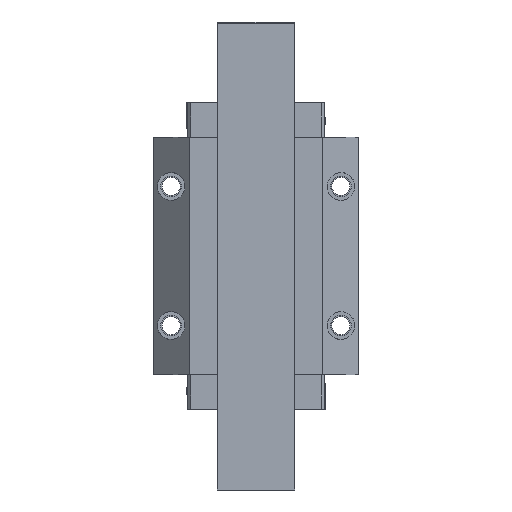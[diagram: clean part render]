
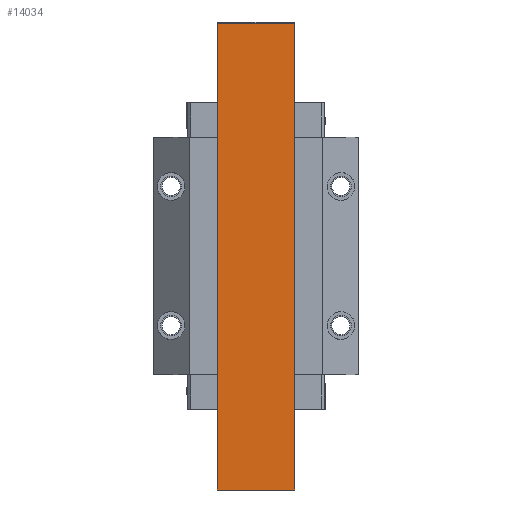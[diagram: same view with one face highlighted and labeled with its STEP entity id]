
A CAD part, front view. The second image highlights one B-rep face of the part: STEP entity #14034.
In plain terms, the highlighted planar face has unit normal (0, -1, 0).
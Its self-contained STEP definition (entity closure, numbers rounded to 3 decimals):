
#13371=DIRECTION('',(1.,0.,0.));
#13372=VECTOR('',#13371,53.);
#13373=CARTESIAN_POINT('',(-26.5,-29.25,-159.825));
#13374=LINE('',#13373,#13372);
#13495=DIRECTION('',(0.,0.,1.));
#13496=VECTOR('',#13495,318.784);
#13497=CARTESIAN_POINT('',(26.5,-29.25,-159.825));
#13498=LINE('',#13497,#13496);
#13499=DIRECTION('',(1.,0.,0.));
#13500=VECTOR('',#13499,53.);
#13501=CARTESIAN_POINT('',(-26.5,-29.25,158.959));
#13502=LINE('',#13501,#13500);
#13503=DIRECTION('',(0.,0.,1.));
#13504=VECTOR('',#13503,318.784);
#13505=CARTESIAN_POINT('',(-26.5,-29.25,-159.825));
#13506=LINE('',#13505,#13504);
#13687=CARTESIAN_POINT('',(26.5,-29.25,158.959));
#13689=VERTEX_POINT('',#13687);
#13691=CARTESIAN_POINT('',(-26.5,-29.25,158.959));
#13693=VERTEX_POINT('',#13691);
#13735=CARTESIAN_POINT('',(-26.5,-29.25,-159.825));
#13736=VERTEX_POINT('',#13735);
#13737=CARTESIAN_POINT('',(26.5,-29.25,-159.825));
#13738=VERTEX_POINT('',#13737);
#14021=CARTESIAN_POINT('',(-26.5,-29.25,-159.825));
#14022=DIRECTION('',(0.,-1.,0.));
#14023=DIRECTION('',(1.,0.,0.));
#14024=AXIS2_PLACEMENT_3D('',#14021,#14022,#14023);
#14025=PLANE('',#14024);
#14027=ORIENTED_EDGE('',*,*,#14026,.T.);
#14028=ORIENTED_EDGE('',*,*,#14016,.F.);
#14029=ORIENTED_EDGE('',*,*,#13776,.F.);
#14031=ORIENTED_EDGE('',*,*,#14030,.T.);
#14032=EDGE_LOOP('',(#14027,#14028,#14029,#14031));
#14033=FACE_OUTER_BOUND('',#14032,.F.);
#13776=EDGE_CURVE('',#13736,#13738,#13374,.T.);
#14016=EDGE_CURVE('',#13738,#13689,#13498,.T.);
#14026=EDGE_CURVE('',#13693,#13689,#13502,.T.);
#14030=EDGE_CURVE('',#13736,#13693,#13506,.T.);
#14034=ADVANCED_FACE('',(#14033),#14025,.T.);
